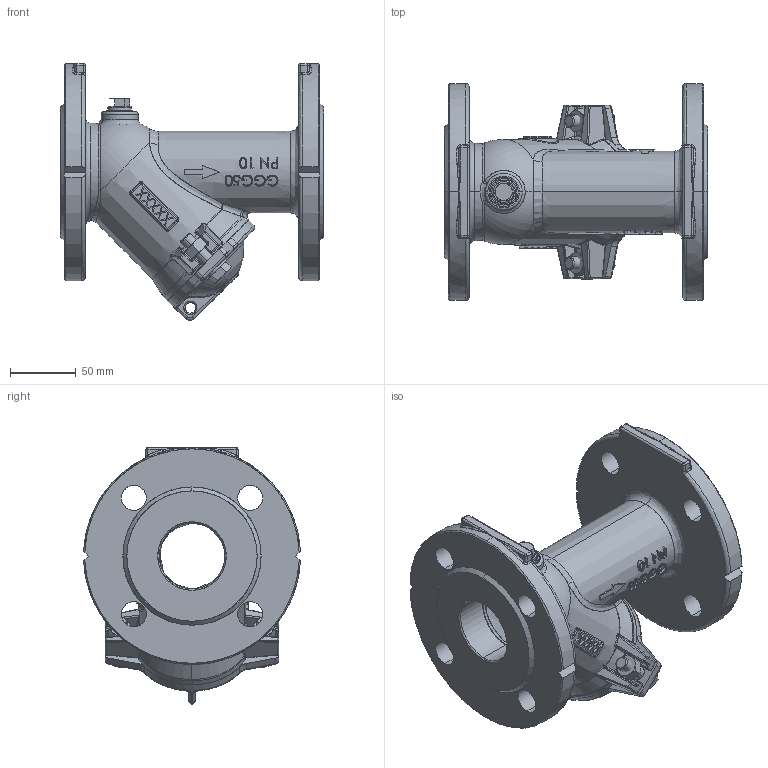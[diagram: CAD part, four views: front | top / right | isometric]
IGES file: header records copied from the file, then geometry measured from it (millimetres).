
Start section: SolidWorks IGES file using analytic representation for surfaces
Global section: file name: H:\BE BIBLIOTHEQUE 3D\BE SECTION 04 - CLAPETS_FILTRES\CBL - Clapet à boule\CBL4240\FSM\DIFFUSION INTERNET\DN 50\642000010-1.IGS; native system: SolidWorks 2017; preprocessor: SolidWorks 2017; author: l.refnou; date: 180216.104958; units: millimetre
Bounding box: 200 x 164.81 x 195.31 mm (x, y, z)
Surface area: 204873.4 mm2 (no closed solid volume)
Topology: 0 solids, 0 shells, 897 faces, 11873 edges, 11843 vertices
Faces by surface type: bspline 556, revolution 341
